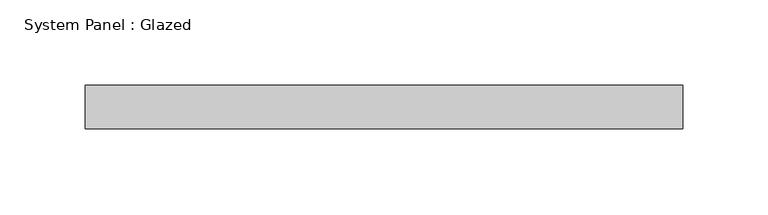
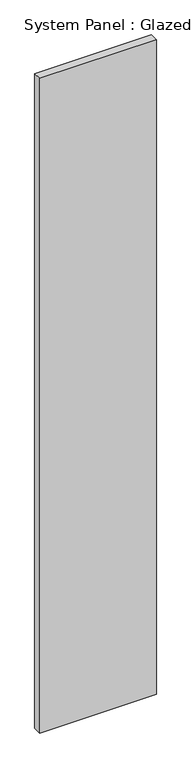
"""IFC4 building model written with IfcOpenShell, lengths in millimetres: plate geometry, System Panel : Glazed."""

from ifc_helpers import new_model, si_unit, origin, origin_with_axes, place, context, project, spatial, polyline, outline, extrude, source, transform, mapped, element, save


def system_panel_glazed_3e91a32b(model_context):
    return source(origin(), model_context, "Body", "SweptSolid", [
        extrude(outline(polyline([(174.625, 19.05), (-174.625, 19.05), (-174.625, 44.45), (174.625, 44.45), (174.625, 19.05)])), origin_with_axes(), (0.0, 0.0, 1.0), 2070.1),
    ])


if __name__ == "__main__":
    model = new_model("IFC4")
    model_context = context("Model", 3, world=origin())
    ifc_project = project(units=[si_unit("LENGTHUNIT", "METRE", prefix="MILLI")], contexts=[model_context])
    site = spatial("IfcSite", under=ifc_project)
    building = spatial("IfcBuilding", under=site)
    placement = place(None, origin())
    system_panel_glazed_shape = system_panel_glazed_3e91a32b(model_context)
    element("IfcPlate", 1, ObjectType="System Panel : Glazed", at=placement, inside=building, context=model_context, shape_type="MappedRepresentation", body=[
        mapped(system_panel_glazed_shape, transform((0.0, 0.0, 0.0), x_axis=(1.0, 0.0, 0.0), y_axis=(0.0, 1.0, 0.0), z_axis=(0.0, 0.0, 1.0))),
    ])
    save(model, "model.ifc")
